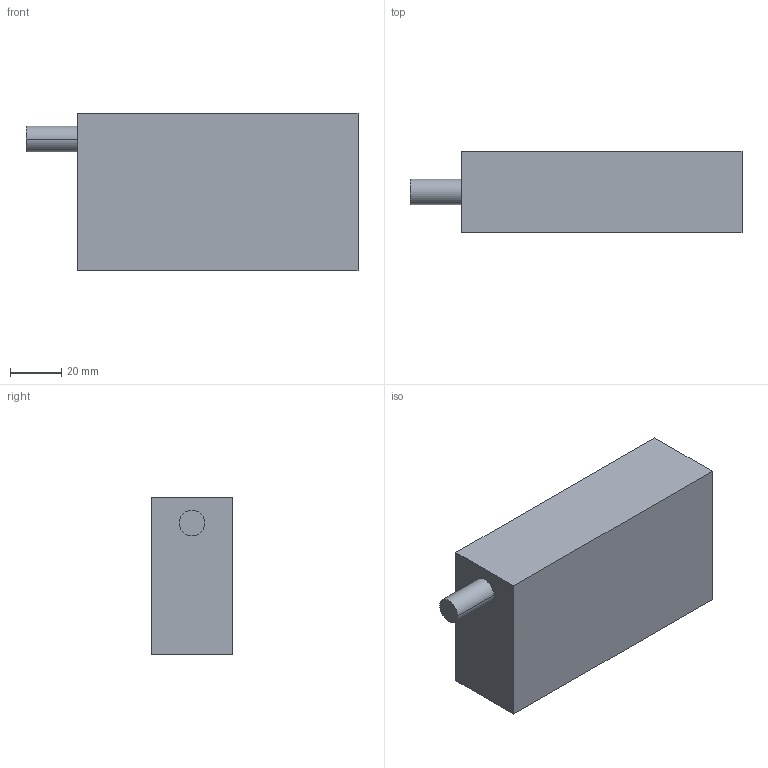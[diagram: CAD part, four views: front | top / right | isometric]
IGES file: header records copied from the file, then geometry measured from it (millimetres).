
Start section:  PTC IGES file: dianyuan.igs
Bounding box: 130 x 32 x 61.5 mm (x, y, z)
Surface area: 25614.3 mm2 (no closed solid volume)
Topology: 0 solids, 0 shells, 14 faces, 60 edges, 60 vertices
Faces by surface type: bspline 12, revolution 2
